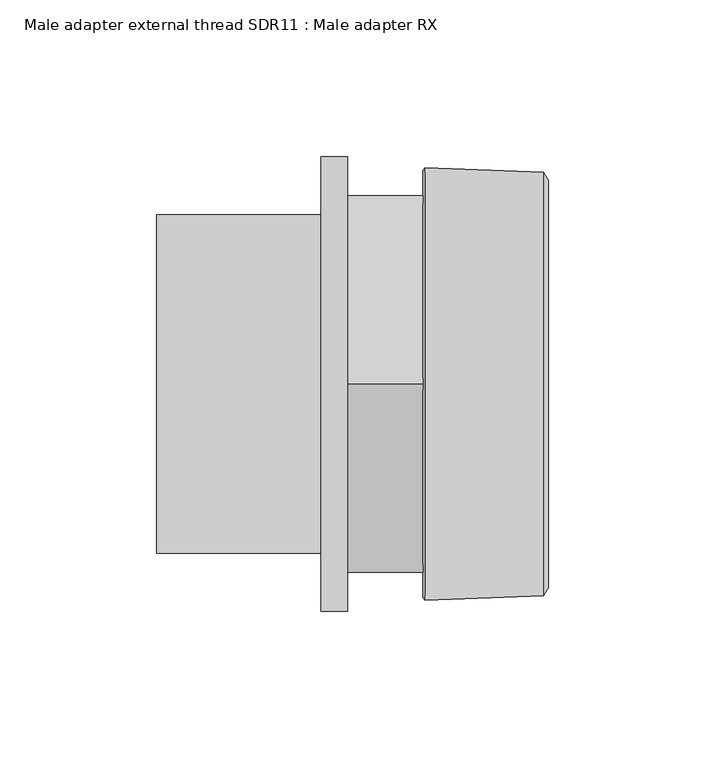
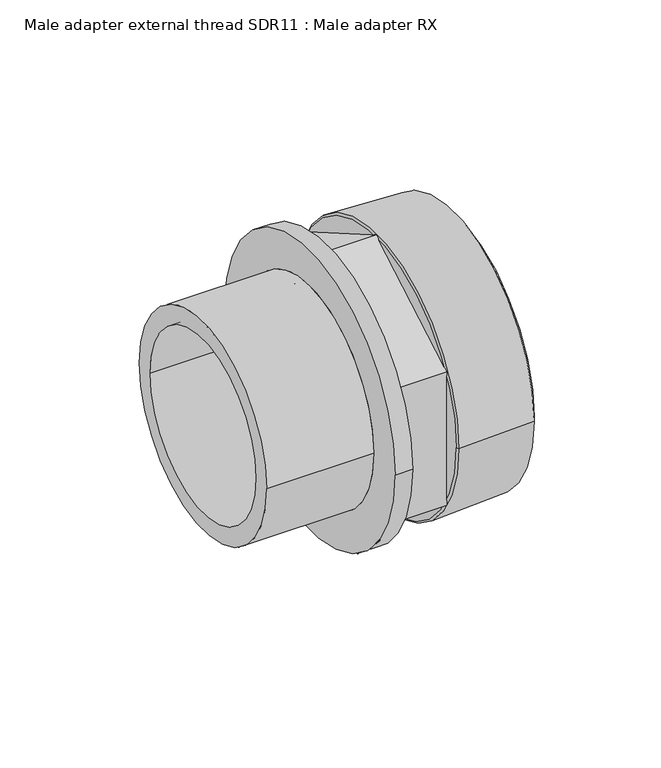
"""IFC4 building model written with IfcOpenShell, lengths in millimetres: pipe fitting geometry, Male adapter external thread SDR11 : Male adapter RX."""

import ifcopenshell
import ifcopenshell.guid

model = None  # the IFC model being written
_history = None  # IfcOwnerHistory: only IFC2X3 demands one
_inside = {}  # id of a spatial element -> (the spatial element, [elements in it])
_under = {}  # id of a project, library or spatial element -> (it, [spatial elements below it])
_declared = {}  # id of a project -> (the project, [libraries it declares])
_typed = {}  # id of a type object -> (the type object, [elements of that type])
_made_of = {}  # id of a material, layer set ... -> (it, [elements and type objects made of it])


def new_model(schema):
    """Start an empty IFC model of exactly this schema.

    Asked for "IFC4X3", IfcOpenShell would pick the latest addendum, in which some entities
    have other attributes; the version numbers below select the first issue.
    IFC2X3 requires an IfcOwnerHistory on every rooted entity: one is made here for all.
    """
    global model, _history
    if schema == "IFC4X3":
        model = ifcopenshell.file(schema_version=(4, 3, 0, 0))
    else:
        model = ifcopenshell.file(schema=schema)
    _inside.clear()
    _under.clear()
    _declared.clear()
    _typed.clear()
    _made_of.clear()
    _history = None
    if model.schema == "IFC2X3":
        org = make("IfcOrganization", Name="unknown")
        user = make(
            "IfcPersonAndOrganization",
            ThePerson=make("IfcPerson", FamilyName="unknown"),
            TheOrganization=org,
        )
        app = make(
            "IfcApplication",
            ApplicationDeveloper=org,
            Version="unknown",
            ApplicationFullName="unknown",
            ApplicationIdentifier="unknown",
        )
        _history = make(
            "IfcOwnerHistory",
            OwningUser=user,
            OwningApplication=app,
            ChangeAction="ADDED",
            CreationDate=0,
        )
    return model


def make(cls, **values):
    """One entity of the class cls with the attributes given. An attribute that is None is left unset."""
    return model.create_entity(
        cls, **{name: value for name, value in values.items() if value is not None}
    )


def rooted(cls, **values):
    """An entity with a GlobalId (a new one), such as an element, a storey or a relation."""
    return make(cls, GlobalId=ifcopenshell.guid.new(), OwnerHistory=_history, **values)


def si_unit(unit_type, name, prefix=None):
    """IfcSIUnit, for example si_unit("LENGTHUNIT", "METRE", prefix="MILLI")."""
    return make("IfcSIUnit", UnitType=unit_type, Prefix=prefix, Name=name)


def assignment(units):
    """IfcUnitAssignment: the units of a project."""
    return None if units is None else make("IfcUnitAssignment", Units=units)


def point(xyz):
    """IfcCartesianPoint."""
    return None if xyz is None else make("IfcCartesianPoint", Coordinates=xyz)


def direction(xyz):
    """IfcDirection."""
    return None if xyz is None else make("IfcDirection", DirectionRatios=xyz)


def frame(location, z_axis=None, x_axis=None):
    """IfcAxis2Placement3D, a coordinate frame: its origin and axes. An axis left out is left unset."""
    return make(
        "IfcAxis2Placement3D",
        Location=point(location),
        Axis=direction(z_axis),
        RefDirection=direction(x_axis),
    )


def origin():
    """The frame at (0, 0, 0) with its axes left unset."""
    return frame((0.0, 0.0, 0.0))


def place(relative_to, where):
    """IfcLocalPlacement: puts the frame where relative to a parent placement (None: the world)."""
    return make(
        "IfcLocalPlacement", PlacementRelTo=relative_to, RelativePlacement=where
    )


def context(
    kind, dimensions, precision=None, world=None, true_north=None, identifier=None
):
    """IfcGeometricRepresentationContext, for example the 3D "Model" context."""
    return make(
        "IfcGeometricRepresentationContext",
        ContextIdentifier=identifier,
        ContextType=kind,
        CoordinateSpaceDimension=dimensions,
        Precision=precision,
        WorldCoordinateSystem=world,
        TrueNorth=true_north,
    )


def project(units=None, contexts=None):
    """IfcProject with its units and contexts."""
    return rooted(
        "IfcProject",
        Name="project",
        RepresentationContexts=contexts,
        UnitsInContext=assignment(units),
    )


def spatial(cls, under=None, at=None, **own):
    """A site, building, storey or space (cls), placed at a placement, below another one or the project."""
    s = rooted(cls, ObjectPlacement=at, **own)
    if under is not None:
        _under.setdefault(under.id(), (under, []))[1].append(s)
    return s


def polyline(points):
    """IfcPolyline through the points."""
    return make("IfcPolyline", Points=[point(p) for p in points])


def circle_curve(where, radius):
    """IfcCircle in the frame where."""
    return make("IfcCircle", Position=where, Radius=radius)


def outline(outer, holes=None, kind="AREA"):
    """IfcArbitraryClosedProfileDef: a profile drawn as a closed curve; with holes, ...WithVoids."""
    if holes is None:
        return make("IfcArbitraryClosedProfileDef", ProfileType=kind, OuterCurve=outer)
    return make(
        "IfcArbitraryProfileDefWithVoids",
        ProfileType=kind,
        OuterCurve=outer,
        InnerCurves=holes,
    )


def extrude(swept, where, along, depth):
    """IfcExtrudedAreaSolid: the profile swept, set in the frame where, extruded along a direction by depth."""
    return make(
        "IfcExtrudedAreaSolid",
        SweptArea=swept,
        Position=where,
        ExtrudedDirection=direction(along),
        Depth=depth,
    )


def shape(context_of_items, identifier, shape_type, items):
    """IfcShapeRepresentation: the items that make up one representation, for example the "Body"."""
    return make(
        "IfcShapeRepresentation",
        ContextOfItems=context_of_items,
        RepresentationIdentifier=identifier,
        RepresentationType=shape_type,
        Items=items,
    )


def source(mapping_origin, context_of_items, identifier, shape_type, items):
    """IfcRepresentationMap: a shape defined once, which mapped items show again and again."""
    return make(
        "IfcRepresentationMap",
        MappingOrigin=mapping_origin,
        MappedRepresentation=shape(context_of_items, identifier, shape_type, items),
    )


def transform(
    local_origin,
    x_axis=None,
    y_axis=None,
    z_axis=None,
    scale=None,
    scale2=None,
    scale3=None,
    uniform=True,
):
    """IfcCartesianTransformationOperator3D, or its non-uniform kind. x_axis, y_axis, z_axis: its Axis1, 2, 3."""
    if uniform:
        return make(
            "IfcCartesianTransformationOperator3D",
            Axis1=direction(x_axis),
            Axis2=direction(y_axis),
            LocalOrigin=point(local_origin),
            Scale=scale,
            Axis3=direction(z_axis),
        )
    return make(
        "IfcCartesianTransformationOperator3DnonUniform",
        Axis1=direction(x_axis),
        Axis2=direction(y_axis),
        LocalOrigin=point(local_origin),
        Scale=scale,
        Axis3=direction(z_axis),
        Scale2=scale2,
        Scale3=scale3,
    )


def mapped(mapping_source, mapping_target):
    """IfcMappedItem: shows the shape of a source again, moved by a transform."""
    return make(
        "IfcMappedItem", MappingSource=mapping_source, MappingTarget=mapping_target
    )


def made_of(thing, what):
    """Note that an element or type object is made of a material, layer set ...; save() writes the relation."""
    if what is not None:
        _made_of.setdefault(what.id(), (what, []))[1].append(thing)
    return thing


def element(
    cls,
    number,
    at=None,
    inside=None,
    cuts=None,
    type_object=None,
    material=None,
    context=None,
    identifier="Body",
    shape_type=None,
    held_by="IfcProductDefinitionShape",
    body=None,
    shapes=None,
    **own,
):
    """One element of the class cls, such as IfcWall. Its Tag is "e" and its number.

    at: its placement. inside: the storey or other place that contains it. cuts: it is an
    opening in that element (IfcRelVoidsElement). A single representation is given by context,
    identifier, shape_type and body (its items); several are given by shapes. held_by: the class
    of the entity that holds the representations. save() writes the other relations.
    """
    e = rooted(cls, Tag="e%d" % number, ObjectPlacement=at, **own)
    if body is not None:
        shapes = [shape(context, identifier, shape_type, body)]
    if shapes is not None:
        e.Representation = make(held_by, Representations=shapes)
    if inside is not None:
        _inside.setdefault(inside.id(), (inside, []))[1].append(e)
    if cuts is not None:
        rooted(
            "IfcRelVoidsElement", RelatingBuildingElement=cuts, RelatedOpeningElement=e
        )
    if type_object is not None:
        _typed.setdefault(type_object.id(), (type_object, []))[1].append(e)
    return made_of(e, material)


def aggregate(whole, parts):
    """IfcRelAggregates: a whole, such as a stair, and the parts it consists of."""
    return rooted("IfcRelAggregates", RelatingObject=whole, RelatedObjects=parts)


def save(model, path):
    """Write the relations noted so far, then the file.

    IfcRelAggregates (storeys below a building ...), IfcRelContainedInSpatialStructure (elements
    in a storey), IfcRelDefinesByType, IfcRelAssociatesMaterial and IfcRelDeclares: one each for
    every whole, place, type object, material and project.
    """
    for whole, parts in _under.values():
        aggregate(whole, parts)
    for where, things in _inside.values():
        rooted(
            "IfcRelContainedInSpatialStructure",
            RelatedElements=things,
            RelatingStructure=where,
        )
    for kind, things in _typed.values():
        rooted("IfcRelDefinesByType", RelatedObjects=things, RelatingType=kind)
    for what, things in _made_of.values():
        rooted("IfcRelAssociatesMaterial", RelatedObjects=things, RelatingMaterial=what)
    for by, libraries in _declared.values():
        rooted("IfcRelDeclares", RelatingContext=by, RelatedDefinitions=libraries)
    model.write(path)


def plane_surface(at):
    """IfcPlane: the flat surface through the origin of the frame at, square to its z axis."""
    return make("IfcPlane", Position=at)


def cylinder_surface(at, radius):
    """IfcCylindricalSurface: all points at the distance radius from the z axis of the frame at."""
    return make("IfcCylindricalSurface", Position=at, Radius=radius)


def revolved_surface(curve, axis_point, axis_direction):
    """IfcSurfaceOfRevolution: the curve turned about the line through axis_point along axis_direction."""
    return make(
        "IfcSurfaceOfRevolution",
        SweptCurve=make("IfcArbitraryOpenProfileDef", ProfileType="CURVE", Curve=curve),
        AxisPosition=make("IfcAxis1Placement", Location=point(axis_point), Axis=direction(axis_direction)),
    )


def advanced_brep(points, edges, surfaces, faces):
    """IfcAdvancedBrep: a solid bounded by faces that lie on surfaces and meet in shared edges.

    An edge is (start, end): straight between two places in points (the first is 0);
    or (start, end, curve); or (start, end, curve, False) where it runs against its curve.
    A face is (place in surfaces, loops), or (place, loops, False) where it looks against
    its surface's normal. A loop lists edges by number (the first is 1), with a minus sign
    where the edge is run from its end to its start. The first loop is the outer one.
    """
    corners = [point(p) for p in points]
    vertices = [make("IfcVertexPoint", VertexGeometry=c) for c in corners]
    made = []
    for start, end, *more in edges:
        made.append(
            make(
                "IfcEdgeCurve",
                EdgeStart=vertices[start],
                EdgeEnd=vertices[end],
                EdgeGeometry=more[0] if more else make("IfcPolyline", Points=[corners[start], corners[end]]),
                SameSense=more[1] if len(more) > 1 else True,
            )
        )
    hull = []
    for where, loops, *sense in faces:
        bounds = []
        for j, loop in enumerate(loops):
            ring = [make("IfcOrientedEdge", EdgeElement=made[abs(k) - 1], Orientation=k > 0) for k in loop]
            bounds.append(
                make(
                    "IfcFaceOuterBound" if j == 0 else "IfcFaceBound",
                    Bound=make("IfcEdgeLoop", EdgeList=ring),
                    Orientation=True,
                )
            )
        hull.append(make("IfcAdvancedFace", Bounds=bounds, FaceSurface=surfaces[where], SameSense=sense[0] if sense else True))
    return make("IfcAdvancedBrep", Outer=make("IfcClosedShell", CfsFaces=hull))


def male_adapter_external_thread_sdr11_male_adapter_rx_e6c9b75a(model_context):
    return source(origin(), model_context, "Body", "SolidModel", [
        advanced_brep(
        [(-7.5, 54.0, 0.0), (-7.5, -54.0, 0.0), (-60.0, -54.0, 0.0), (-60.0, 54.0, 0.0), (1.0, 72.5, 0.0), (1.0, -72.5, 0.0), (-7.5, -72.5, 0.0), (-7.5, 72.5, 0.0), (0.0, 54.0, 0.0), (0.0, -54.0, 0.0), (1.0, -54.0, 0.0), (1.0, 54.0, 0.0), (-60.0, 45.0, 0.0), (-60.0, -45.0, 0.0), (0.0, -45.0, 0.0), (0.0, 45.0, 0.0)],
        [
            (0, 1, circle_curve(frame((-7.5, 0.0, 0.0), z_axis=(-1.0, 0.0, 0.0), x_axis=(0.0, -1.0, 0.0)), 54.0)),
            (1, 2),
            (2, 3, circle_curve(frame((-60.0, 0.0, 0.0), z_axis=(1.0, 0.0, 0.0), x_axis=(0.0, -1.0, 0.0)), 54.0)),
            (3, 0),
            (4, 5, circle_curve(frame((1.0, 0.0, 0.0), z_axis=(-1.0, 0.0, 0.0), x_axis=(0.0, -1.0, 0.0)), 72.5)),
            (5, 6),
            (6, 7, circle_curve(frame((-7.5, 0.0, 0.0), z_axis=(1.0, 0.0, 0.0), x_axis=(0.0, -1.0, 0.0)), 72.5)),
            (7, 4),
            (8, 9, circle_curve(frame((0.0, 0.0, 0.0), z_axis=(-1.0, 0.0, 0.0), x_axis=(0.0, -1.0, 0.0)), 54.0)),
            (9, 10),
            (10, 11, circle_curve(frame((1.0, 0.0, 0.0), z_axis=(1.0, 0.0, 0.0), x_axis=(0.0, -1.0, 0.0)), 54.0)),
            (11, 8),
            (12, 13, circle_curve(frame((-60.0, 0.0, 0.0), z_axis=(-1.0, 0.0, 0.0), x_axis=(0.0, -1.0, 0.0)), 45.0)),
            (13, 14),
            (14, 15, circle_curve(frame((0.0, 0.0, 0.0), z_axis=(1.0, 0.0, 0.0), x_axis=(0.0, -1.0, 0.0)), 45.0)),
            (15, 12),
            (2, 3, circle_curve(frame((-60.0, 0.0, 0.0), z_axis=(-1.0, 0.0, 0.0), x_axis=(0.0, 1.0, 0.0)), 54.0)),
            (12, 13, circle_curve(frame((-60.0, 0.0, 0.0), z_axis=(1.0, 0.0, 0.0), x_axis=(0.0, 1.0, 0.0)), 45.0)),
            (1, 0, circle_curve(frame((-7.5, 0.0, 0.0), z_axis=(-1.0, 0.0, 0.0), x_axis=(0.0, 1.0, 0.0)), 54.0)),
            (6, 7, circle_curve(frame((-7.5, 0.0, 0.0), z_axis=(-1.0, 0.0, 0.0), x_axis=(0.0, 1.0, 0.0)), 72.5)),
            (5, 4, circle_curve(frame((1.0, 0.0, 0.0), z_axis=(-1.0, 0.0, 0.0), x_axis=(0.0, 1.0, 0.0)), 72.5)),
            (10, 11, circle_curve(frame((1.0, 0.0, 0.0), z_axis=(-1.0, 0.0, 0.0), x_axis=(0.0, 1.0, 0.0)), 54.0)),
            (9, 8, circle_curve(frame((0.0, 0.0, 0.0), z_axis=(-1.0, 0.0, 0.0), x_axis=(0.0, 1.0, 0.0)), 54.0)),
            (14, 15, circle_curve(frame((0.0, 0.0, 0.0), z_axis=(-1.0, 0.0, 0.0), x_axis=(0.0, 1.0, 0.0)), 45.0)),
        ],
        [
            cylinder_surface(frame((0.0, 0.0, 0.0), z_axis=(1.0, 0.0, 0.0), x_axis=(0.0, -1.0, 0.0)), 54.0),
            cylinder_surface(frame((0.0, 0.0, 0.0), z_axis=(1.0, 0.0, 0.0), x_axis=(0.0, -1.0, 0.0)), 72.5),
            revolved_surface(polyline([(1.0, -54.0, 0.0), (0.0, -54.0, 0.0)]), (0.0, 0.0, 0.0), (1.0, 0.0, 0.0)),
            revolved_surface(polyline([(0.0, -45.0, 0.0), (-60.0, -45.0, 0.0)]), (0.0, 0.0, 0.0), (1.0, 0.0, 0.0)),
            plane_surface(frame((-60.0, 0.0, 0.0), z_axis=(-1.0, 0.0, 0.0), x_axis=(0.0, 1.0, 0.0))),
            cylinder_surface(frame((0.0, 0.0, 0.0), z_axis=(1.0, 0.0, 0.0), x_axis=(0.0, 1.0, 0.0)), 54.0),
            plane_surface(frame((-7.5, 0.0, 0.0), z_axis=(-1.0, 0.0, 0.0), x_axis=(0.0, 1.0, 0.0))),
            cylinder_surface(frame((0.0, 0.0, 0.0), z_axis=(1.0, 0.0, 0.0), x_axis=(0.0, 1.0, 0.0)), 72.5),
            plane_surface(frame((1.0, 0.0, 0.0), z_axis=(1.0, 0.0, 0.0), x_axis=(0.0, 1.0, 0.0))),
            revolved_surface(polyline([(1.0, 54.0, 0.0), (0.0, 54.0, 0.0)]), (0.0, 0.0, 0.0), (1.0, 0.0, 0.0)),
            plane_surface(frame((0.0, 0.0, 0.0), z_axis=(1.0, 0.0, 0.0), x_axis=(0.0, 1.0, 0.0))),
            revolved_surface(polyline([(0.0, 45.0, 0.0), (-60.0, 45.0, 0.0)]), (0.0, 0.0, 0.0), (1.0, 0.0, 0.0)),
        ],
        [
            (0, [[1, 2, 3, 4]]),
            (1, [[5, 6, 7, 8]]),
            (2, [[9, 10, 11, 12]]),
            (3, [[13, 14, 15, 16]]),
            (4, [[17, -3], [18, -13]]),
            (5, [[19, -4, -17, -2]]),
            (6, [[20, -7], [-19, -1]]),
            (7, [[21, -8, -20, -6]]),
            (8, [[-21, -5], [22, -11]]),
            (9, [[23, -12, -22, -10]]),
            (10, [[-23, -9], [24, -15]]),
            (11, [[-18, -16, -24, -14]]),
        ],
    ),
        advanced_brep(
        [(26.1032803, 60.0, 0.0), (26.1032803, -60.0, 0.0), (65.0, -60.0, 0.0), (65.0, 60.0, 0.0), (25.0, 58.8967197, 0.0), (25.0, -58.8967197, 0.0), (25.7406902, 69.0, 0.0), (25.7406902, -69.0, 0.0), (25.0, -68.0, 0.0), (25.0, 68.0, 0.0), (63.5000007, 67.5, 0.0), (63.5000007, -67.5, 0.0), (65.0, 65.0, 0.0), (65.0, -65.0, 0.0)],
        [
            (0, 1, circle_curve(frame((26.1032803, 0.0, 0.0), z_axis=(-1.0, 0.0, 0.0), x_axis=(0.0, -1.0, 0.0)), 60.0)),
            (1, 2),
            (2, 3, circle_curve(frame((65.0, 0.0, 0.0), z_axis=(1.0, 0.0, 0.0), x_axis=(0.0, -1.0, 0.0)), 60.0)),
            (3, 0),
            (4, 5, circle_curve(frame((25.0, 0.0, 0.0), z_axis=(-1.0, 0.0, 0.0), x_axis=(0.0, -1.0, 0.0)), 58.8967197)),
            (5, 1),
            (0, 4),
            (6, 7, circle_curve(frame((25.7406902, 0.0, 0.0), z_axis=(-1.0, 0.0, 0.0), x_axis=(0.0, -1.0, 0.0)), 69.0)),
            (7, 8),
            (8, 9, circle_curve(frame((25.0, 0.0, 0.0), z_axis=(1.0, 0.0, 0.0), x_axis=(0.0, -1.0, 0.0)), 68.0)),
            (9, 6),
            (10, 11, circle_curve(frame((63.5000007, 0.0, 0.0), z_axis=(-1.0, 0.0, 0.0), x_axis=(0.0, -1.0, 0.0)), 67.5)),
            (11, 7),
            (6, 10),
            (12, 13, circle_curve(frame((65.0, 0.0, 0.0), z_axis=(-1.0, 0.0, 0.0), x_axis=(0.0, -1.0, 0.0)), 65.0)),
            (13, 11),
            (10, 12),
            (1, 0, circle_curve(frame((26.1032803, 0.0, 0.0), z_axis=(-1.0, 0.0, 0.0), x_axis=(0.0, 1.0, 0.0)), 60.0)),
            (3, 2, circle_curve(frame((65.0, 0.0, 0.0), z_axis=(1.0, 0.0, 0.0), x_axis=(0.0, 1.0, 0.0)), 60.0)),
            (5, 4, circle_curve(frame((25.0, 0.0, 0.0), z_axis=(-1.0, 0.0, 0.0), x_axis=(0.0, 1.0, 0.0)), 58.8967197)),
            (8, 9, circle_curve(frame((25.0, 0.0, 0.0), z_axis=(-1.0, 0.0, 0.0), x_axis=(0.0, 1.0, 0.0)), 68.0)),
            (7, 6, circle_curve(frame((25.7406902, 0.0, 0.0), z_axis=(-1.0, 0.0, 0.0), x_axis=(0.0, 1.0, 0.0)), 69.0)),
            (11, 10, circle_curve(frame((63.5000007, 0.0, 0.0), z_axis=(-1.0, 0.0, 0.0), x_axis=(0.0, 1.0, 0.0)), 67.5)),
            (13, 12, circle_curve(frame((65.0, 0.0, 0.0), z_axis=(-1.0, 0.0, 0.0), x_axis=(0.0, 1.0, 0.0)), 65.0)),
        ],
        [
            revolved_surface(polyline([(65.0, -60.0, 0.0), (26.1032803, -60.0, 0.0)]), (0.0, 0.0, 0.0), (1.0, 0.0, 0.0)),
            revolved_surface(polyline([(26.1032803, -60.0, 0.0), (25.0, -58.8967197, 0.0)]), (0.0, 0.0, 0.0), (1.0, 0.0, 0.0)),
            revolved_surface(polyline([(25.0, -68.0, 0.0), (25.7406902, -69.0, 0.0)]), (0.0, 0.0, 0.0), (1.0, 0.0, 0.0)),
            revolved_surface(polyline([(25.7406902, -69.0, 0.0), (63.5000007, -67.5, 0.0)]), (0.0, 0.0, 0.0), (1.0, 0.0, 0.0)),
            revolved_surface(polyline([(63.5000007, -67.5, 0.0), (65.0, -65.0, 0.0)]), (0.0, 0.0, 0.0), (1.0, 0.0, 0.0)),
            revolved_surface(polyline([(65.0, 60.0, 0.0), (26.1032803, 60.0, 0.0)]), (0.0, 0.0, 0.0), (1.0, 0.0, 0.0)),
            revolved_surface(polyline([(26.1032803, 60.0, 0.0), (25.0, 58.8967197, 0.0)]), (0.0, 0.0, 0.0), (1.0, 0.0, 0.0)),
            plane_surface(frame((25.0, 0.0, 0.0), z_axis=(-1.0, 0.0, 0.0), x_axis=(0.0, 1.0, 0.0))),
            revolved_surface(polyline([(25.0, 68.0, 0.0), (25.7406902, 69.0, 0.0)]), (0.0, 0.0, 0.0), (1.0, 0.0, 0.0)),
            revolved_surface(polyline([(25.7406902, 69.0, 0.0), (63.5000007, 67.5, 0.0)]), (0.0, 0.0, 0.0), (1.0, 0.0, 0.0)),
            revolved_surface(polyline([(63.5000007, 67.5, 0.0), (65.0, 65.0, 0.0)]), (0.0, 0.0, 0.0), (1.0, 0.0, 0.0)),
            plane_surface(frame((65.0, 0.0, 0.0), z_axis=(1.0, 0.0, 0.0), x_axis=(0.0, 1.0, 0.0))),
        ],
        [
            (0, [[1, 2, 3, 4]]),
            (1, [[5, 6, -1, 7]]),
            (2, [[8, 9, 10, 11]]),
            (3, [[12, 13, -8, 14]]),
            (4, [[15, 16, -12, 17]]),
            (5, [[18, -4, 19, -2]]),
            (6, [[20, -7, -18, -6]]),
            (7, [[21, -10], [-20, -5]]),
            (8, [[22, -11, -21, -9]]),
            (9, [[23, -14, -22, -13]]),
            (10, [[24, -17, -23, -16]]),
            (11, [[-24, -15], [-19, -3]]),
        ],
    ),
        extrude(outline(polyline([(-60.0, 34.6410162), (0.0, 69.2820323), (60.0, 34.6410162), (60.0, -34.6410162), (0.0, -69.2820323), (-60.0, -34.6410162), (-60.0, 34.6410162)])), frame((0.0, 0.0, 0.0), z_axis=(1.0, 0.0, 0.0), x_axis=(0.0, 1.0, 0.0)), (0.0, 0.0, 1.0), 25.0),
    ])


if __name__ == "__main__":
    model = new_model("IFC4")
    model_context = context("Model", 3, world=origin())
    ifc_project = project(units=[si_unit("LENGTHUNIT", "METRE", prefix="MILLI")], contexts=[model_context])
    site = spatial("IfcSite", under=ifc_project)
    building = spatial("IfcBuilding", under=site)
    placement = place(None, origin())
    male_adapter_external_thread_sdr11_male_adapter_rx_shape = male_adapter_external_thread_sdr11_male_adapter_rx_e6c9b75a(model_context)
    element("IfcPipeFitting", 1, ObjectType="Male adapter external thread SDR11 : Male adapter RX", at=placement, inside=building, context=model_context, shape_type="MappedRepresentation", body=[
        mapped(male_adapter_external_thread_sdr11_male_adapter_rx_shape, transform((0.0, 0.0, 0.0), x_axis=(1.0, 0.0, 0.0), y_axis=(0.0, 1.0, 0.0), z_axis=(0.0, 0.0, 1.0))),
    ])
    save(model, "model.ifc")
